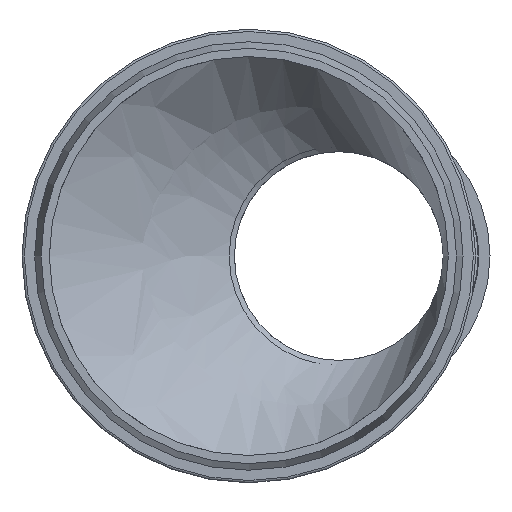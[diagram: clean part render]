
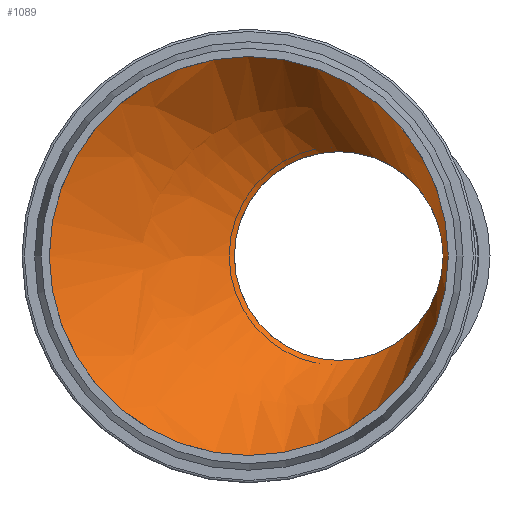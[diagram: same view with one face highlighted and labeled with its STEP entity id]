
A CAD part, front view. The second image highlights one B-rep face of the part: STEP entity #1089.
In plain terms, the highlighted free-form (B-spline) face has degree [1, 2] with [2, 9] control points.
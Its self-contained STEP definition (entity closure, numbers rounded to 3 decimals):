
#202=FACE_OUTER_BOUND($,#262,.T.);
#262=EDGE_LOOP($,(#729,#730,#731,#732,#733,#734));
#364=B_SPLINE_CURVE_WITH_KNOTS($,1,(#1611,#1612),.UNSPECIFIED.,.F.,.F.,
(2,2),(0.,1.524),.UNSPECIFIED.);
#414=CIRCLE($,#1162,21.975);
#415=CIRCLE($,#1163,21.975);
#416=CIRCLE($,#1164,42.);
#417=CIRCLE($,#1165,42.);
#473=VERTEX_POINT($,#1606);
#474=VERTEX_POINT($,#1607);
#475=VERTEX_POINT($,#1610);
#476=VERTEX_POINT($,#1613);
#584=EDGE_CURVE($,#473,#474,#414,.T.);
#585=EDGE_CURVE($,#474,#473,#415,.T.);
#586=EDGE_CURVE($,#474,#475,#364,.T.);
#587=EDGE_CURVE($,#475,#476,#416,.T.);
#588=EDGE_CURVE($,#476,#475,#417,.T.);
#729=ORIENTED_EDGE($,*,*,#584,.F.);
#730=ORIENTED_EDGE($,*,*,#585,.F.);
#731=ORIENTED_EDGE($,*,*,#586,.T.);
#732=ORIENTED_EDGE($,*,*,#587,.T.);
#733=ORIENTED_EDGE($,*,*,#588,.T.);
#734=ORIENTED_EDGE($,*,*,#586,.F.);
#1019=(
BOUNDED_SURFACE()
B_SPLINE_SURFACE(1,2,((#1588,#1589,#1590,#1591,#1592,#1593,#1594,#1595,
#1596),(#1597,#1598,#1599,#1600,#1601,#1602,#1603,#1604,#1605)),
 .UNSPECIFIED.,.F.,.T.,.F.)
B_SPLINE_SURFACE_WITH_KNOTS((2,2),(3,2,2,2,3),(-0.423,3.167),
(-3.142,-1.571,0.,1.571,3.142),
 .UNSPECIFIED.)
GEOMETRIC_REPRESENTATION_ITEM()
RATIONAL_B_SPLINE_SURFACE(((1.,0.707,1.,0.707,1.,
0.707,1.,0.707,1.),(1.,0.707,1.,0.707,
1.,0.707,1.,0.707,1.)))
REPRESENTATION_ITEM($)
SURFACE()
);
#1089=ADVANCED_FACE($,(#202),#1019,.T.);
#1162=AXIS2_PLACEMENT_3D($,#1608,#1293,#1294);
#1163=AXIS2_PLACEMENT_3D($,#1609,#1295,#1296);
#1164=AXIS2_PLACEMENT_3D($,#1614,#1297,#1298);
#1165=AXIS2_PLACEMENT_3D($,#1615,#1299,#1300);
#1293=DIRECTION('center_axis',(0.,-1.,0.));
#1294=DIRECTION('ref_axis',(1.,0.,0.));
#1295=DIRECTION('center_axis',(0.,-1.,0.));
#1296=DIRECTION('ref_axis',(1.,0.,0.));
#1297=DIRECTION('center_axis',(0.,-1.,0.));
#1298=DIRECTION('ref_axis',(1.,0.,0.));
#1299=DIRECTION('center_axis',(0.,-1.,0.));
#1300=DIRECTION('ref_axis',(1.,0.,0.));
#1588=CARTESIAN_POINT('Ctrl Pts',(29.733,96.527,15.454));
#1589=CARTESIAN_POINT('Ctrl Pts',(18.562,102.665,15.454));
#1590=CARTESIAN_POINT('Ctrl Pts',(18.562,102.665,0.));
#1591=CARTESIAN_POINT('Ctrl Pts',(18.562,102.665,-15.454));
#1592=CARTESIAN_POINT('Ctrl Pts',(29.733,96.527,-15.454));
#1593=CARTESIAN_POINT('Ctrl Pts',(40.905,90.39,-15.454));
#1594=CARTESIAN_POINT('Ctrl Pts',(40.905,90.39,0.));
#1595=CARTESIAN_POINT('Ctrl Pts',(40.905,90.39,15.454));
#1596=CARTESIAN_POINT('Ctrl Pts',(29.733,96.527,15.454));
#1597=CARTESIAN_POINT('Ctrl Pts',(1.088,44.385,59.856));
#1598=CARTESIAN_POINT('Ctrl Pts',(-42.182,68.156,59.856));
#1599=CARTESIAN_POINT('Ctrl Pts',(-42.182,68.156,0.));
#1600=CARTESIAN_POINT('Ctrl Pts',(-42.182,68.156,-59.856));
#1601=CARTESIAN_POINT('Ctrl Pts',(1.088,44.385,-59.856));
#1602=CARTESIAN_POINT('Ctrl Pts',(44.358,20.613,-59.856));
#1603=CARTESIAN_POINT('Ctrl Pts',(44.358,20.613,0.));
#1604=CARTESIAN_POINT('Ctrl Pts',(44.358,20.613,59.856));
#1605=CARTESIAN_POINT('Ctrl Pts',(1.088,44.385,59.856));
#1606=CARTESIAN_POINT('',(40.905,90.39,0.));
#1607=CARTESIAN_POINT('',(26.362,90.39,20.68));
#1608=CARTESIAN_POINT('Origin',(18.93,90.39,0.));
#1609=CARTESIAN_POINT('Origin',(18.93,90.39,0.));
#1610=CARTESIAN_POINT('',(14.204,68.26,39.525));
#1611=CARTESIAN_POINT('Ctrl Pts',(26.362,90.39,20.68));
#1612=CARTESIAN_POINT('Ctrl Pts',(14.204,68.26,39.525));
#1613=CARTESIAN_POINT('',(42.,68.26,0.));
#1614=CARTESIAN_POINT('Origin',(0.,68.26,0.));
#1615=CARTESIAN_POINT('Origin',(0.,68.26,0.));
